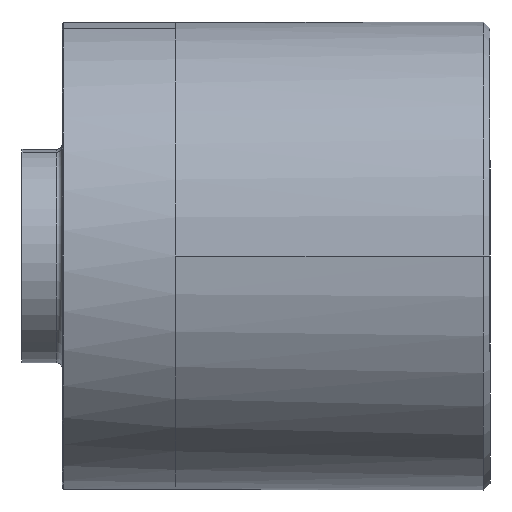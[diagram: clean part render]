
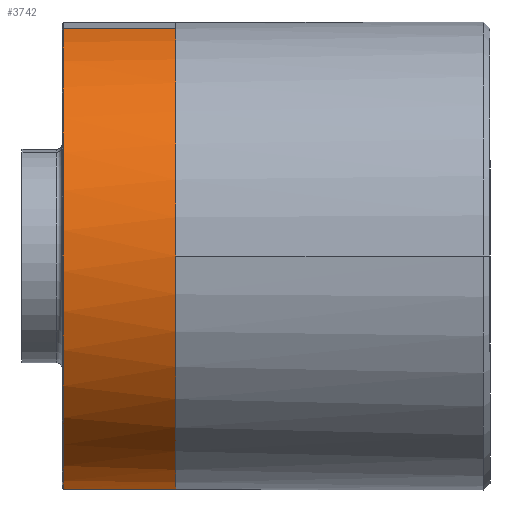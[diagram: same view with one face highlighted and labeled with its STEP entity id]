
A CAD part, left-side view. The second image highlights one B-rep face of the part: STEP entity #3742.
In plain terms, the highlighted cylindrical face has radius 17.5 mm (diameter 35 mm), a partial arc.
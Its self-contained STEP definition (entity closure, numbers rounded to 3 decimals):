
#195 = VECTOR ( 'NONE', #2934, 1000. ) ;
#204 = CARTESIAN_POINT ( 'NONE',  ( 4.16, 31.9, -16.998 ) ) ;
#288 = LINE ( 'NONE', #877, #195 ) ;
#351 = CARTESIAN_POINT ( 'NONE',  ( -4.16, 23.5, 16.998 ) ) ;
#456 = CIRCLE ( 'NONE', #2800, 17.5 ) ;
#520 = ORIENTED_EDGE ( 'NONE', *, *, #3070, .T. ) ;
#554 = FACE_OUTER_BOUND ( 'NONE', #2996, .T. ) ;
#686 = EDGE_CURVE ( 'NONE', #1385, #2633, #1243, .T. ) ;
#722 = EDGE_CURVE ( 'NONE', #928, #2755, #456, .T. ) ;
#724 = DIRECTION ( 'NONE',  ( -0.238, 0., 0.971 ) ) ;
#792 = CARTESIAN_POINT ( 'NONE',  ( -4.16, 32., 16.998 ) ) ;
#866 = CARTESIAN_POINT ( 'NONE',  ( 0., 23.5, 0. ) ) ;
#877 = CARTESIAN_POINT ( 'NONE',  ( 4.16, 32., -16.998 ) ) ;
#899 = ORIENTED_EDGE ( 'NONE', *, *, #686, .T. ) ;
#928 = VERTEX_POINT ( 'NONE', #2947 ) ;
#955 = VERTEX_POINT ( 'NONE', #351 ) ;
#962 = DIRECTION ( 'NONE',  ( -0.238, 0., 0.971 ) ) ;
#1170 = CYLINDRICAL_SURFACE ( 'NONE', #2774, 17.5 ) ;
#1172 = DIRECTION ( 'NONE',  ( 1., 0., 0. ) ) ;
#1243 = CIRCLE ( 'NONE', #2399, 17.5 ) ;
#1263 = CARTESIAN_POINT ( 'NONE',  ( 0., 23.5, 0. ) ) ;
#1302 = ORIENTED_EDGE ( 'NONE', *, *, #2236, .T. ) ;
#1385 = VERTEX_POINT ( 'NONE', #1867 ) ;
#1470 = CARTESIAN_POINT ( 'NONE',  ( -17.5, 23.5, 0. ) ) ;
#1552 = CARTESIAN_POINT ( 'NONE',  ( 0., 32., 0. ) ) ;
#1672 = ORIENTED_EDGE ( 'NONE', *, *, #2933, .F. ) ;
#1867 = CARTESIAN_POINT ( 'NONE',  ( -4.16, 31.9, 16.998 ) ) ;
#1990 = VECTOR ( 'NONE', #2847, 1000. ) ;
#2111 = CARTESIAN_POINT ( 'NONE',  ( 0., 31.9, 0. ) ) ;
#2236 = EDGE_CURVE ( 'NONE', #2633, #928, #288, .T. ) ;
#2399 = AXIS2_PLACEMENT_3D ( 'NONE', #2111, #2405, #724 ) ;
#2405 = DIRECTION ( 'NONE',  ( 0., -1., 0. ) ) ;
#2633 = VERTEX_POINT ( 'NONE', #204 ) ;
#2755 = VERTEX_POINT ( 'NONE', #1470 ) ;
#2774 = AXIS2_PLACEMENT_3D ( 'NONE', #1552, #3017, #962 ) ;
#2800 = AXIS2_PLACEMENT_3D ( 'NONE', #1263, #3470, #3189 ) ;
#2847 = DIRECTION ( 'NONE',  ( 0., -1., 0. ) ) ;
#2928 = DIRECTION ( 'NONE',  ( 0., 1., 0. ) ) ;
#2933 = EDGE_CURVE ( 'NONE', #1385, #955, #3475, .T. ) ;
#2934 = DIRECTION ( 'NONE',  ( 0., -1., 0. ) ) ;
#2947 = CARTESIAN_POINT ( 'NONE',  ( 4.16, 23.5, -16.998 ) ) ;
#2996 = EDGE_LOOP ( 'NONE', ( #899, #1302, #3292, #520, #1672 ) ) ;
#3011 = CIRCLE ( 'NONE', #3596, 17.5 ) ;
#3017 = DIRECTION ( 'NONE',  ( 0., -1., 0. ) ) ;
#3070 = EDGE_CURVE ( 'NONE', #2755, #955, #3011, .T. ) ;
#3189 = DIRECTION ( 'NONE',  ( 1., 0., 0. ) ) ;
#3292 = ORIENTED_EDGE ( 'NONE', *, *, #722, .T. ) ;
#3470 = DIRECTION ( 'NONE',  ( 0., 1., 0. ) ) ;
#3475 = LINE ( 'NONE', #792, #1990 ) ;
#3596 = AXIS2_PLACEMENT_3D ( 'NONE', #866, #2928, #1172 ) ;
#3742 = ADVANCED_FACE ( 'NONE', ( #554 ), #1170, .T. ) ;
